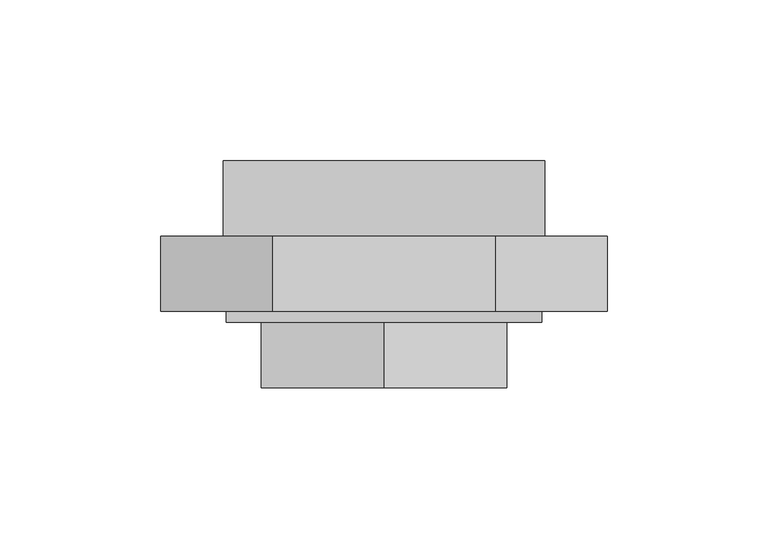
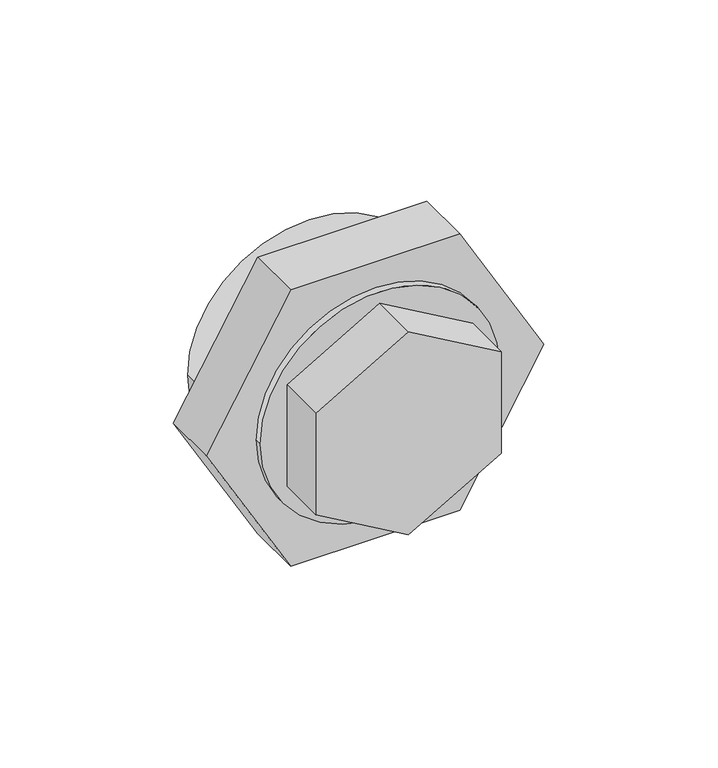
"""IFC4 building model written with IfcOpenShell, lengths in millimetres: pipe fitting geometry, EGB_VASEN_ PPR_Enlace desmontable rosca hembra WXR104 : Enlace desmontable rosca hembra WXR104."""

from ifc_helpers import new_model, si_unit, point, frame, origin, origin_2d, place, context, project, spatial, polyline, circle_curve, trimmed, segment, composite_curve, outline, extrude, source, transform, mapped, element, save


def pipe_fitting_dd157525(model_context):
    return source(origin(), model_context, "Body", "SweptSolid", [
        extrude(outline(polyline([(-21.9970453, -38.1), (-43.9940905, 0.0), (-21.9970453, 38.1), (21.9970453, 38.1), (43.9940905, 0.0), (21.9970453, -38.1), (-21.9970453, -38.1)])), frame((0.0, -46.42125, 0.0), z_axis=(0.0, 1.0, 0.0), x_axis=(0.0, 0.0, 1.0)), (0.0, 0.0, 1.0), 20.3333333),
        extrude(outline(polyline([(0.0, 69.2820323), (60.0, 34.6410162), (60.0, -34.6410162), (0.0, -69.2820323), (-60.0, -34.6410162), (-60.0, 34.6410162), (0.0, 69.2820323)])), frame((0.0, -22.7204167, 0.0), z_axis=(0.0, 1.0, 0.0), x_axis=(0.0, 0.0, 1.0)), (0.0, 0.0, 1.0), 23.3333333),
        extrude(outline(composite_curve([segment(trimmed(circle_curve(origin_2d(), 49.05), [point((0.0, -49.05))], [point((0.0, 49.05))], False, "CARTESIAN"), True, "CONTINUOUS"), segment(trimmed(circle_curve(origin_2d(), 49.05), [point((0.0, 49.05))], [point((0.0, -49.05))], False, "CARTESIAN"), True, "CONTINUOUS")], self_intersect=False)), frame((0.0, -26.0879167, 0.0), z_axis=(0.0, 1.0, 0.0), x_axis=(0.0, 0.0, 1.0)), (0.0, 0.0, 1.0), 3.3675),
        extrude(outline(composite_curve([segment(trimmed(circle_curve(origin_2d(), 50.0), [point((0.0, -50.0))], [point((0.0, 50.0))], False, "CARTESIAN"), True, "CONTINUOUS"), segment(trimmed(circle_curve(origin_2d(), 50.0), [point((0.0, 50.0))], [point((0.0, -50.0))], False, "CARTESIAN"), True, "CONTINUOUS")], self_intersect=False), holes=[composite_curve([segment(trimmed(circle_curve(origin_2d(), 37.5), [point((0.0, -37.5))], [point((0.0, 37.5))], True, "CARTESIAN"), True, "CONTINUOUS"), segment(trimmed(circle_curve(origin_2d(), 37.5), [point((0.0, 37.5))], [point((0.0, -37.5))], True, "CARTESIAN"), True, "CONTINUOUS")], self_intersect=False)]), frame((0.0, 0.6129167, 0.0), z_axis=(0.0, 1.0, 0.0), x_axis=(0.0, 0.0, 1.0)), (0.0, 0.0, 1.0), 23.3333333),
    ])


if __name__ == "__main__":
    model = new_model("IFC4")
    model_context = context("Model", 3, world=origin())
    ifc_project = project(units=[si_unit("LENGTHUNIT", "METRE", prefix="MILLI")], contexts=[model_context])
    site = spatial("IfcSite", under=ifc_project)
    building = spatial("IfcBuilding", under=site)
    placement = place(None, origin())
    pipe_fitting_shape = pipe_fitting_dd157525(model_context)
    element("IfcPipeFitting", 1, ObjectType="EGB_VASEN_ PPR_Enlace desmontable rosca hembra WXR104 : Enlace desmontable rosca hembra WXR104", at=placement, inside=building, context=model_context, shape_type="MappedRepresentation", body=[
        mapped(pipe_fitting_shape, transform((0.0, 0.0, 0.0), x_axis=(1.0, 0.0, 0.0), y_axis=(0.0, 1.0, 0.0), z_axis=(0.0, 0.0, 1.0))),
    ])
    save(model, "model.ifc")
